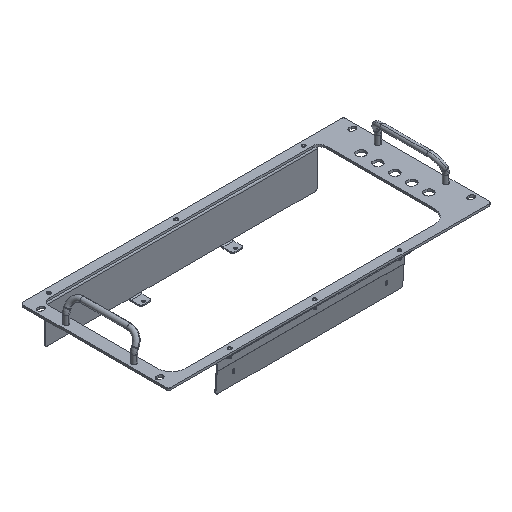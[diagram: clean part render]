
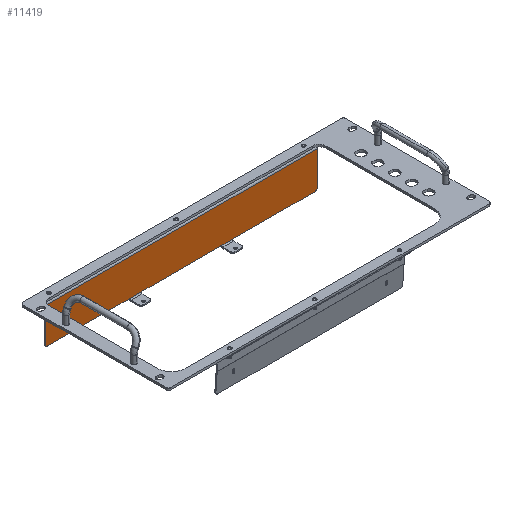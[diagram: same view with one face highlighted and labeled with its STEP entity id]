
A CAD part, isometric view. The second image highlights one B-rep face of the part: STEP entity #11419.
In plain terms, the highlighted planar face has unit normal (0, -1, 0).
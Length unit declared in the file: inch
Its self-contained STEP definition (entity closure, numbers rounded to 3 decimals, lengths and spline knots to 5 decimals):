
#10593=DIRECTION('',(1.,0.,0.));
#10594=VECTOR('',#10593,16.);
#10595=CARTESIAN_POINT('',(0.,0.,-0.126));
#10596=LINE('',#10595,#10594);
#10611=CARTESIAN_POINT('',(15.875,0.,-2.125));
#10612=DIRECTION('',(0.,-1.,0.));
#10613=DIRECTION('',(0.,0.,-1.));
#10614=AXIS2_PLACEMENT_3D('',#10611,#10612,#10613);
#10616=CARTESIAN_POINT('',(0.125,0.,-2.125));
#10617=DIRECTION('',(0.,-1.,0.));
#10618=DIRECTION('',(-1.,0.,0.));
#10619=AXIS2_PLACEMENT_3D('',#10616,#10617,#10618);
#10625=DIRECTION('',(0.,0.,-1.));
#10626=VECTOR('',#10625,1.999);
#10627=CARTESIAN_POINT('',(16.,0.,-0.126));
#10628=LINE('',#10627,#10626);
#10689=DIRECTION('',(0.,0.,-1.));
#10690=VECTOR('',#10689,1.999);
#10691=CARTESIAN_POINT('',(0.,0.,-0.126));
#10692=LINE('',#10691,#10690);
#10697=DIRECTION('',(1.,0.,0.));
#10698=VECTOR('',#10697,4.855);
#10699=CARTESIAN_POINT('',(0.125,0.,-2.25));
#10700=LINE('',#10699,#10698);
#10837=DIRECTION('',(-1.,0.,0.));
#10838=VECTOR('',#10837,0.64);
#10839=CARTESIAN_POINT('',(5.62,0.,-2.25));
#10840=LINE('',#10839,#10838);
#10845=DIRECTION('',(1.,0.,0.));
#10846=VECTOR('',#10845,4.76);
#10847=CARTESIAN_POINT('',(5.62,0.,-2.25));
#10848=LINE('',#10847,#10846);
#10985=DIRECTION('',(1.,0.,0.));
#10986=VECTOR('',#10985,0.64);
#10987=CARTESIAN_POINT('',(10.38,0.,-2.25));
#10988=LINE('',#10987,#10986);
#11001=DIRECTION('',(1.,0.,0.));
#11002=VECTOR('',#11001,4.855);
#11003=CARTESIAN_POINT('',(11.02,0.,-2.25));
#11004=LINE('',#11003,#11002);
#11005=CARTESIAN_POINT('',(0.,0.,-0.126));
#11006=CARTESIAN_POINT('',(16.,0.,-0.126));
#11007=VERTEX_POINT('',#11005);
#11008=VERTEX_POINT('',#11006);
#11029=CARTESIAN_POINT('',(10.38,0.,-2.25));
#11031=VERTEX_POINT('',#11029);
#11033=CARTESIAN_POINT('',(11.02,0.,-2.25));
#11035=VERTEX_POINT('',#11033);
#11077=CARTESIAN_POINT('',(5.62,0.,-2.25));
#11079=VERTEX_POINT('',#11077);
#11081=CARTESIAN_POINT('',(4.98,0.,-2.25));
#11083=VERTEX_POINT('',#11081);
#11093=CARTESIAN_POINT('',(15.875,0.,-2.25));
#11094=CARTESIAN_POINT('',(16.,0.,-2.125));
#11095=VERTEX_POINT('',#11093);
#11096=VERTEX_POINT('',#11094);
#11141=CARTESIAN_POINT('',(0.,0.,-2.125));
#11142=CARTESIAN_POINT('',(0.125,0.,-2.25));
#11143=VERTEX_POINT('',#11141);
#11144=VERTEX_POINT('',#11142);
#11393=CARTESIAN_POINT('',(0.,0.,0.));
#11394=DIRECTION('',(0.,-1.,0.));
#11395=DIRECTION('',(0.,0.,-1.));
#11396=AXIS2_PLACEMENT_3D('',#11393,#11394,#11395);
#11397=PLANE('',#11396);
#11399=ORIENTED_EDGE('',*,*,#11398,.F.);
#11401=ORIENTED_EDGE('',*,*,#11400,.F.);
#11403=ORIENTED_EDGE('',*,*,#11402,.F.);
#11405=ORIENTED_EDGE('',*,*,#11404,.F.);
#11407=ORIENTED_EDGE('',*,*,#11406,.T.);
#11409=ORIENTED_EDGE('',*,*,#11408,.F.);
#11411=ORIENTED_EDGE('',*,*,#11410,.F.);
#11413=ORIENTED_EDGE('',*,*,#11412,.F.);
#11414=ORIENTED_EDGE('',*,*,#11384,.T.);
#11416=ORIENTED_EDGE('',*,*,#11415,.T.);
#11417=EDGE_LOOP('',(#11399,#11401,#11403,#11405,#11407,#11409,#11411,#11413,
#11414,#11416));
#11418=FACE_OUTER_BOUND('',#11417,.F.);
#11419=ADVANCED_FACE('',(#11418),#11397,.T.);
#10615=CIRCLE('',#10614,0.125);
#10620=CIRCLE('',#10619,0.125);
#11384=EDGE_CURVE('',#11007,#11008,#10596,.T.);
#11398=EDGE_CURVE('',#11095,#11096,#10615,.T.);
#11400=EDGE_CURVE('',#11035,#11095,#11004,.T.);
#11402=EDGE_CURVE('',#11031,#11035,#10988,.T.);
#11404=EDGE_CURVE('',#11079,#11031,#10848,.T.);
#11406=EDGE_CURVE('',#11079,#11083,#10840,.T.);
#11408=EDGE_CURVE('',#11144,#11083,#10700,.T.);
#11410=EDGE_CURVE('',#11143,#11144,#10620,.T.);
#11412=EDGE_CURVE('',#11007,#11143,#10692,.T.);
#11415=EDGE_CURVE('',#11008,#11096,#10628,.T.);
